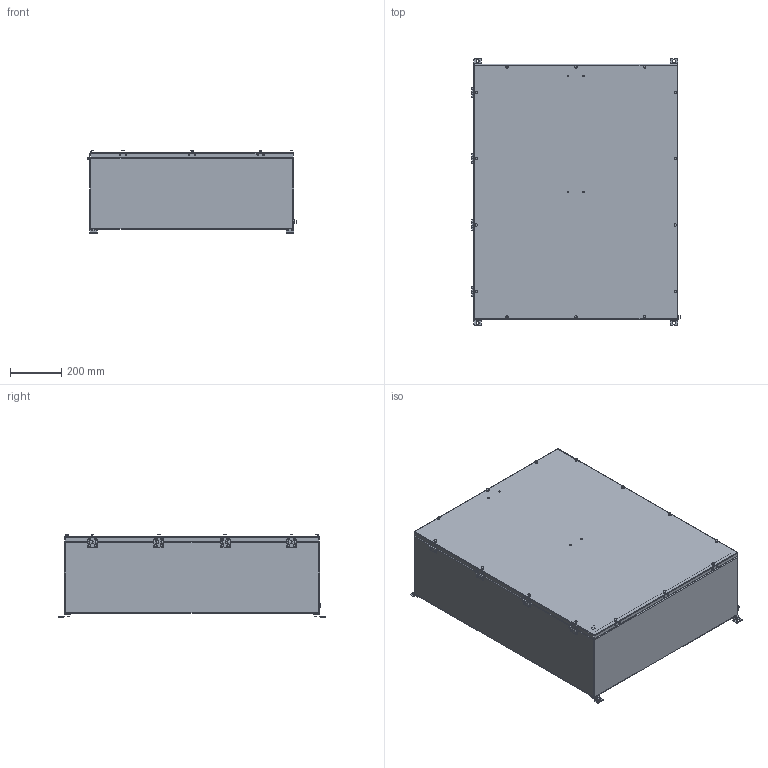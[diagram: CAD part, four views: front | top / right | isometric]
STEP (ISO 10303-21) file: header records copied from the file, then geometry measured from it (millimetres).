
FILE_DESCRIPTION((''),'2;1');
FILE_NAME('\\192.168.5.25\cortem_klient\INVENTOR БАЗА МОДЕЛЕЙ\Актуальная база моделей для отдела продаж\КСРВ-Н\КСРВ-Н1008030_М5.stp','2019-04-09T14:20:35',('A.S.Kozlov'),(''),'Autodesk Inventor 2012','Autodesk Inventor 2012','');
FILE_SCHEMA(('CONFIG_CONTROL_DESIGN'));
Length unit declared in the file: millimetre
Products named in the file (1): КСРВ-(параметрическая модель)_Внешний контур_1
Bounding box: 819.19 x 1044 x 321.7 mm (x, y, z)
Surface area: 3511774.7 mm2 (no closed solid volume)
Topology: 0 solids, 62 shells, 132 faces, 772 edges, 690 vertices
Faces by surface type: plane 78, cylinder 51, sphere 3
Full cylindrical faces by diameter (mm): 10 x2
Entity records: 8232 total; most frequent: CARTESIAN_POINT 1600, DIRECTION 1374, ORIENTED_EDGE 875, EDGE_CURVE 767, VERTEX_POINT 688, AXIS2_PLACEMENT_3D 480, VECTOR 414, LINE 414
